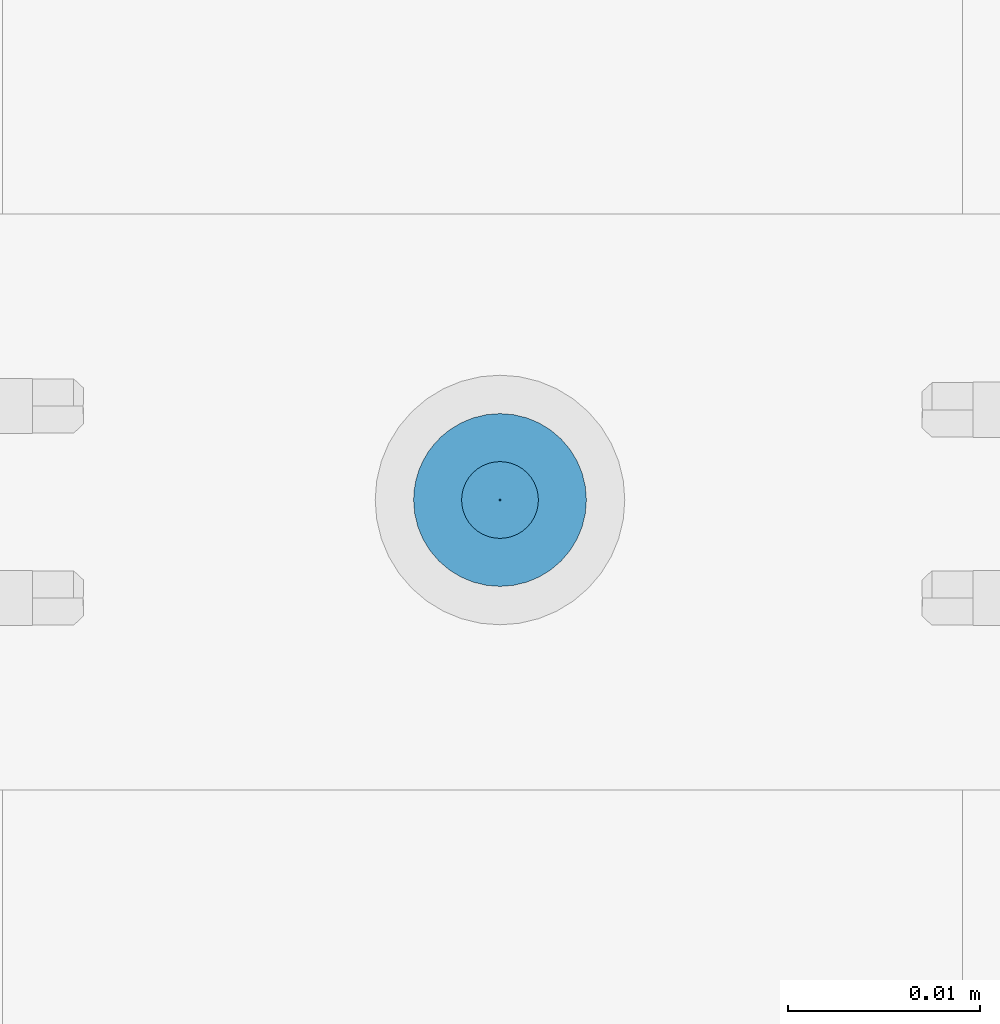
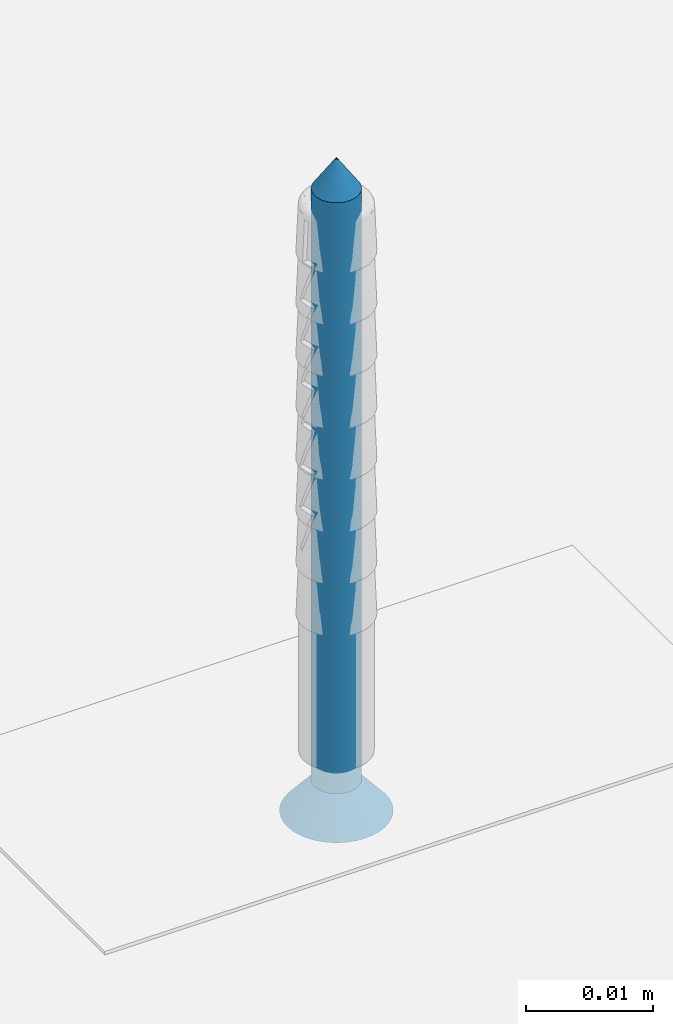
# One storey, part 7 of 62: 1 slab.
"""IFC2X3 building model written with IfcOpenShell, lengths in millimetres."""

from ifc_helpers import new_model, entity, si_unit, converted_unit, direction, frame, origin, origin_with_axes, place, context, project, spatial, faceted_brep, element, save


model = new_model("IFC2X3")

# Units and contexts
model_context = context("Model", 3, precision=1e-05, world=origin(), true_north=direction((0.0, 1.0, 0.0)))
ifc_project = project(units=[si_unit("LENGTHUNIT", "METRE", prefix="MILLI"), si_unit("AREAUNIT", "SQUARE_METRE"), si_unit("VOLUMEUNIT", "CUBIC_METRE"), converted_unit("PLANEANGLEUNIT", "DEGREE", entity("IfcPlaneAngleMeasure", 0.01745), si_unit("PLANEANGLEUNIT", "RADIAN"), dimensions=[0, 0, 0, 0, 0, 0, 0]), si_unit("SOLIDANGLEUNIT", "STERADIAN"), si_unit("MASSUNIT", "GRAM"), si_unit("TIMEUNIT", "SECOND"), si_unit("THERMODYNAMICTEMPERATUREUNIT", "DEGREE_CELSIUS"), si_unit("LUMINOUSINTENSITYUNIT", "LUMEN")], contexts=[model_context])

# Site, building, storey
site_placement = place(None, origin_with_axes())
site = spatial("IfcSite", under=ifc_project, at=site_placement, Name="Default Site", CompositionType="ELEMENT")
building_placement = place(site_placement, origin_with_axes())
building = spatial("IfcBuilding", under=site, at=building_placement, Name="Default Building", CompositionType="ELEMENT")
storey_placement = place(building_placement, origin_with_axes())
storey = spatial("IfcBuildingStorey", under=building, at=storey_placement, Name="Default Building Storey", CompositionType="ELEMENT", Elevation=0.0)

# Slab
slab_placement = place(storey_placement, frame((5816.179814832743, 408.8922130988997, 1384.974461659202), z_axis=(-6.858158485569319e-13, 6.095830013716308e-13, -1.0), x_axis=(-1.647602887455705e-11, -1.0, -6.095830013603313e-13)))
element("IfcSlab", 1, at=slab_placement, inside=storey, Name="Stalowe elementy mocujące", context=model_context, shape_type="Brep", body=[
    faceted_brep([(-1438.31414949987, 3453.283223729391, -0.4642567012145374), (-1435.814149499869, 3453.283223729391, -3.464256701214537), (-1435.78952618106, 3452.97035479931, -3.464256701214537), (-1438.258747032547, 3452.57926863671, -0.4642567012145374), (-1435.71626253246, 3452.665189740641, -3.464256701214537), (-1438.093903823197, 3451.892647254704, -0.4642567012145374), (-1435.596162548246, 3452.375242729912, -3.464256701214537), (-1437.823678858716, 3451.240266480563, -0.4642567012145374), (-1435.432183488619, 3452.107653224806, -3.464256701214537), (-1437.454725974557, 3450.638190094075, -0.4642567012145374), (-1435.228363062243, 3451.869010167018, -3.464256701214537), (-1436.996130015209, 3450.101243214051, -0.4642567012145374), (-1434.989720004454, 3451.665189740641, -3.464256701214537), (-1436.459183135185, 3449.642647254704, -0.4642567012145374), (-1434.722130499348, 3451.501210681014, -3.464256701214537), (-1435.857106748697, 3449.273694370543, -0.4642567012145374), (-1434.432183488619, 3451.381110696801, -3.464256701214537), (-1435.204725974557, 3449.003469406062, -0.4642567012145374), (-1434.12701842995, 3451.307847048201, -3.464256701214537), (-1434.51810459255, 3448.838626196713, -0.4642567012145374), (-1433.814149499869, 3451.283223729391, -3.464256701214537), (-1433.814149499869, 3448.783223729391, -0.4642567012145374), (-1433.501280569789, 3451.307847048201, -3.464256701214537), (-1433.110194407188, 3448.838626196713, -0.4642567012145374), (-1433.19611551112, 3451.381110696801, -3.464256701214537), (-1432.423573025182, 3449.003469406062, -0.4642567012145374), (-1432.906168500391, 3451.501210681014, -3.464256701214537), (-1431.771192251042, 3449.273694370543, -0.4642567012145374), (-1432.638578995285, 3451.665189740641, -3.464256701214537), (-1431.169115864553, 3449.642647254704, -0.4642567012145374), (-1432.399935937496, 3451.869010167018, -3.464256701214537), (-1430.63216898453, 3450.101243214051, -0.4642567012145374), (-1432.196115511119, 3452.107653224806, -3.464256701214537), (-1430.173573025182, 3450.638190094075, -0.4642567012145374), (-1432.032136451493, 3452.375242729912, -3.464256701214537), (-1429.804620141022, 3451.240266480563, -0.4642567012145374), (-1431.912036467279, 3452.665189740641, -3.464256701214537), (-1429.534395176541, 3451.892647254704, -0.4642567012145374), (-1431.838772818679, 3453.596092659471, -3.464256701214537), (-1429.369551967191, 3453.987178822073, -0.4642567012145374), (-1429.314149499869, 3453.283223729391, -0.4642567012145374), (-1431.81414949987, 3453.283223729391, -3.464256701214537), (-1429.369551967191, 3452.57926863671, -0.4642567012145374), (-1431.838772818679, 3452.97035479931, -3.464256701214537), (-1431.912036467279, 3453.901257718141, -3.464256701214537), (-1429.534395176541, 3454.673800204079, -0.4642567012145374), (-1432.032136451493, 3454.19120472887, -3.464256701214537), (-1429.804620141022, 3455.326180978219, -0.4642567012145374), (-1432.196115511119, 3454.458794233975, -3.464256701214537), (-1430.173573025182, 3455.928257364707, -0.4642567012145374), (-1432.399935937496, 3454.697437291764, -3.464256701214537), (-1430.63216898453, 3456.465204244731, -0.4642567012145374), (-1432.638578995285, 3454.901257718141, -3.464256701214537), (-1431.169115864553, 3456.923800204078, -0.4642567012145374), (-1432.906168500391, 3455.065236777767, -3.464256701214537), (-1431.771192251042, 3457.292753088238, -0.4642567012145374), (-1433.19611551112, 3455.185336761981, -3.464256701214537), (-1432.423573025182, 3457.562978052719, -0.4642567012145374), (-1433.501280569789, 3455.258600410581, -3.464256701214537), (-1433.110194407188, 3457.727821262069, -0.4642567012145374), (-1433.814149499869, 3455.283223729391, -3.464256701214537), (-1433.814149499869, 3457.783223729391, -0.4642567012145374), (-1434.34306778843, 3457.752031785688, -0.4642567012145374), (-1434.12701842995, 3455.258600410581, -3.464256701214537), (-1434.432183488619, 3455.185336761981, -3.464256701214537), (-1434.864653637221, 3457.658888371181, -0.4642567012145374), (-1435.371676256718, 3457.505084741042, -0.4642567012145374), (-1434.722130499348, 3455.065236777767, -3.464256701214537), (-1435.857106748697, 3457.292753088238, -0.4642567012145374), (-1434.989720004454, 3454.901257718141, -3.464256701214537), (-1435.228363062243, 3454.697437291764, -3.464256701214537), (-1436.314215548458, 3457.024836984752, -0.4642567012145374), (-1436.736665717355, 3456.705050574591, -0.4642567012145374), (-1437.11860079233, 3456.337827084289, -0.4642567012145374), (-1437.454725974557, 3455.928257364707, -0.4642567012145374), (-1435.432183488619, 3454.458794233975, -3.464256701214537), (-1435.596162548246, 3454.19120472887, -3.464256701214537), (-1437.823678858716, 3455.326180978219, -0.4642567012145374), (-1435.71626253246, 3453.901257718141, -3.464256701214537), (-1438.093903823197, 3454.673800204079, -0.4642567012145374), (-1435.78952618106, 3453.596092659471, -3.464256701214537), (-1438.258747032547, 3453.987178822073, -0.4642567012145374), (-1434.205235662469, 3455.752444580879, 0.2007375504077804), (-1433.814149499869, 3455.78322372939, 0.2007375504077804), (-1434.586691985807, 3455.660865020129, 0.2007375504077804), (-1434.949125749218, 3455.510740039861, 0.2007375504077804), (-1435.283612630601, 3455.305766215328, 0.2007375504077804), (-1435.581916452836, 3455.050990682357, 0.2007375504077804), (-1435.836691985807, 3454.752686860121, 0.2007375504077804), (-1436.04166581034, 3454.41819997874, 0.2007375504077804), (-1436.191790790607, 3454.055766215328, 0.2007375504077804), (-1436.283370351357, 3453.674309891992, 0.2007375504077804), (-1436.314149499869, 3453.283223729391, 0.2007375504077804), (-1436.283370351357, 3452.892137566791, 0.2007375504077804), (-1436.191790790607, 3452.510681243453, 0.2007375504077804), (-1436.04166581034, 3452.148247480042, 0.2007375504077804), (-1435.836691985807, 3451.81376059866, 0.200737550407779), (-1435.581916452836, 3451.515456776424, 0.2007375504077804), (-1435.283612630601, 3451.260681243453, 0.2007375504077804), (-1434.949125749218, 3451.05570741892, 0.2007375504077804), (-1434.586691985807, 3450.905582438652, 0.2007375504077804), (-1433.423063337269, 3450.814002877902, 0.2007375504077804), (-1433.814149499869, 3450.783223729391, 0.2007375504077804), (-1434.205235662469, 3450.814002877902, 0.2007375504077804), (-1433.041607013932, 3450.905582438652, 0.2007375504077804), (-1432.67917325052, 3451.05570741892, 0.2007375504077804), (-1432.344686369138, 3451.260681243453, 0.2007375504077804), (-1432.046382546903, 3451.515456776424, 0.2007375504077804), (-1431.791607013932, 3451.81376059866, 0.2007375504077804), (-1431.586633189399, 3452.148247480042, 0.2007375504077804), (-1431.436508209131, 3452.510681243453, 0.2007375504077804), (-1431.344928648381, 3452.892137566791, 0.2007375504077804), (-1431.314149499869, 3453.283223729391, 0.2007375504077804), (-1431.344928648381, 3453.674309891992, 0.2007375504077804), (-1431.436508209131, 3454.055766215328, 0.2007375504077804), (-1431.586633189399, 3454.41819997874, 0.2007375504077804), (-1431.791607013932, 3454.752686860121, 0.2007375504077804), (-1432.046382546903, 3455.050990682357, 0.2007375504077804), (-1432.344686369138, 3455.305766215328, 0.2007375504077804), (-1432.67917325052, 3455.510740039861, 0.2007375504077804), (-1433.041607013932, 3455.660865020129, 0.2007375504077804), (-1433.423063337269, 3455.752444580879, 0.2007375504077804), (-1433.814149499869, 3453.283223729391, -63.46425670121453), (-1435.789526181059, 3452.97035479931, -60.46425670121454), (-1435.814149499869, 3453.283223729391, -60.46425670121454), (-1435.716262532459, 3452.665189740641, -60.46425670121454), (-1435.596162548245, 3452.375242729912, -60.46425670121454), (-1435.432183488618, 3452.107653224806, -60.46425670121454), (-1435.228363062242, 3451.869010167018, -60.46425670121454), (-1434.989720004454, 3451.665189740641, -60.46425670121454), (-1434.722130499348, 3451.501210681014, -60.46425670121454), (-1434.432183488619, 3451.381110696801, -60.46425670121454), (-1434.127018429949, 3451.307847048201, -60.46425670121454), (-1433.814149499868, 3451.283223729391, -60.46425670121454), (-1433.501280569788, 3451.307847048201, -60.46425670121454), (-1433.196115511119, 3451.381110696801, -60.46425670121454), (-1432.90616850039, 3451.501210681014, -60.46425670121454), (-1432.638578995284, 3451.665189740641, -60.46425670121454), (-1432.399935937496, 3451.869010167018, -60.46425670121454), (-1432.196115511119, 3452.107653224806, -60.46425670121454), (-1432.032136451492, 3452.375242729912, -60.46425670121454), (-1431.912036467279, 3452.665189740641, -60.46425670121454), (-1431.838772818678, 3452.97035479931, -60.46425670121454), (-1431.814149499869, 3453.283223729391, -60.46425670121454), (-1431.838772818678, 3453.596092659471, -60.46425670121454), (-1431.912036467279, 3453.901257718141, -60.46425670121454), (-1432.032136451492, 3454.19120472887, -60.46425670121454), (-1432.196115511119, 3454.458794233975, -60.46425670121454), (-1432.399935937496, 3454.697437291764, -60.46425670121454), (-1432.638578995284, 3454.901257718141, -60.46425670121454), (-1432.90616850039, 3455.065236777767, -60.46425670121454), (-1433.196115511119, 3455.185336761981, -60.46425670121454), (-1433.501280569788, 3455.258600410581, -60.46425670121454), (-1433.814149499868, 3455.283223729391, -60.46425670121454), (-1434.127018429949, 3455.258600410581, -60.46425670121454), (-1434.432183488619, 3455.185336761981, -60.46425670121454), (-1434.722130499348, 3455.065236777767, -60.46425670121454), (-1434.989720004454, 3454.901257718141, -60.46425670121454), (-1435.228363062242, 3454.697437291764, -60.46425670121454), (-1435.432183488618, 3454.458794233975, -60.46425670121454), (-1435.596162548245, 3454.19120472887, -60.46425670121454), (-1435.716262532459, 3453.901257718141, -60.46425670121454), (-1435.789526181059, 3453.596092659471, -60.46425670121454), (-1435.814149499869, 3453.783223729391, 0.04999999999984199), (-1436.04166581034, 3454.41819997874, 0.04999999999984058), (-1436.191790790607, 3454.055766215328, 0.04999999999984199), (-1435.814149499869, 3452.783223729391, 0.04999999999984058), (-1434.314149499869, 3453.783223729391, 0.04999999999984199), (-1434.314149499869, 3455.28322372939, 0.04999999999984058), (-1433.314149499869, 3455.28322372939, 0.04999999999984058), (-1433.314149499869, 3453.783223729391, 0.04999999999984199), (-1431.814149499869, 3453.783223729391, 0.04999999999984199), (-1431.814149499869, 3452.783223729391, 0.04999999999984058), (-1433.314149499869, 3452.783223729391, 0.04999999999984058), (-1433.314149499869, 3451.283223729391, 0.04999999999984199), (-1434.314149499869, 3451.283223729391, 0.04999999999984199), (-1434.314149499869, 3452.783223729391, 0.04999999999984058), (-1436.283370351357, 3453.674309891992, 0.04999999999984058), (-1436.314149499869, 3453.283223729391, 0.04999999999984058), (-1436.283370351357, 3452.892137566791, 0.04999999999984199), (-1436.191790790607, 3452.510681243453, 0.04999999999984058), (-1436.04166581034, 3452.148247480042, 0.04999999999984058), (-1435.836691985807, 3451.81376059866, 0.04999999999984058), (-1435.581916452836, 3451.515456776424, 0.04999999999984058), (-1435.283612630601, 3451.260681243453, 0.04999999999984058), (-1434.949125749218, 3451.05570741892, 0.04999999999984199), (-1434.586691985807, 3450.905582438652, 0.04999999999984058), (-1434.205235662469, 3450.814002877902, 0.04999999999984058), (-1433.814149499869, 3450.783223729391, 0.04999999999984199), (-1433.423063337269, 3450.814002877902, 0.04999999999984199), (-1433.041607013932, 3450.905582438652, 0.04999999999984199), (-1432.67917325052, 3451.05570741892, 0.04999999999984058), (-1432.344686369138, 3451.260681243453, 0.04999999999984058), (-1432.046382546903, 3451.515456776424, 0.04999999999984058), (-1431.791607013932, 3451.81376059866, 0.04999999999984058), (-1431.586633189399, 3452.148247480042, 0.04999999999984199), (-1431.436508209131, 3452.510681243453, 0.04999999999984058), (-1431.344928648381, 3452.892137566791, 0.04999999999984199), (-1431.314149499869, 3453.283223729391, 0.04999999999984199), (-1431.344928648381, 3453.674309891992, 0.04999999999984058), (-1431.436508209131, 3454.055766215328, 0.04999999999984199), (-1431.586633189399, 3454.41819997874, 0.04999999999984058), (-1431.791607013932, 3454.752686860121, 0.04999999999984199), (-1432.046382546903, 3455.050990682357, 0.04999999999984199), (-1432.344686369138, 3455.305766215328, 0.04999999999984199), (-1432.67917325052, 3455.510740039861, 0.04999999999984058), (-1433.041607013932, 3455.660865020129, 0.04999999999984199), (-1433.423063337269, 3455.752444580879, 0.04999999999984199), (-1433.814149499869, 3455.78322372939, 0.04999999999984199), (-1434.205235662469, 3455.752444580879, 0.04999999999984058), (-1434.586691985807, 3455.660865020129, 0.04999999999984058), (-1434.949125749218, 3455.510740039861, 0.04999999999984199), (-1435.283612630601, 3455.305766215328, 0.04999999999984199), (-1435.581916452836, 3455.050990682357, 0.04999999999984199), (-1435.836691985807, 3454.752686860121, 0.04999999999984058), (-1434.314149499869, 3452.783223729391, -1.79926244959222), (-1434.314149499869, 3451.283223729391, -1.799262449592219), (-1433.314149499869, 3451.283223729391, -1.799262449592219), (-1433.314149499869, 3452.783223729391, -1.79926244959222), (-1431.81414949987, 3452.783223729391, -1.79926244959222), (-1431.81414949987, 3453.783223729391, -1.799262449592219), (-1433.314149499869, 3453.783223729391, -1.799262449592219), (-1433.314149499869, 3455.28322372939, -1.79926244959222), (-1434.314149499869, 3455.28322372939, -1.79926244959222), (-1434.314149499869, 3453.783223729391, -1.799262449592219), (-1435.814149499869, 3453.783223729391, -1.799262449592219), (-1435.814149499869, 3452.783223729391, -1.79926244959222)], [[[0, 1, 2, 3]], [[4, 5, 3, 2]], [[6, 7, 5, 4]], [[7, 6, 8, 9]], [[10, 11, 9, 8]], [[11, 10, 12, 13]], [[14, 15, 13, 12]], [[16, 17, 15, 14]], [[17, 16, 18, 19]], [[20, 21, 19, 18]], [[21, 20, 22, 23]], [[24, 25, 23, 22]], [[26, 27, 25, 24]], [[27, 26, 28, 29]], [[30, 31, 29, 28]], [[31, 30, 32, 33]], [[34, 35, 33, 32]], [[36, 37, 35, 34]], [[38, 39, 40, 41]], [[41, 40, 42, 43]], [[37, 36, 43, 42]], [[44, 45, 39, 38]], [[46, 47, 45, 44]], [[47, 46, 48, 49]], [[50, 51, 49, 48]], [[51, 50, 52, 53]], [[54, 55, 53, 52]], [[56, 57, 55, 54]], [[57, 56, 58, 59]], [[60, 61, 59, 58]], [[62, 61, 63]], [[61, 60, 63]], [[63, 64, 62]], [[64, 65, 62]], [[66, 65, 64]], [[64, 67, 66]], [[67, 68, 66]], [[69, 70, 71]], [[70, 72, 71]], [[71, 68, 69]], [[68, 67, 69]], [[70, 73, 72]], [[74, 73, 75]], [[73, 70, 75]], [[76, 77, 74, 75]], [[78, 79, 77, 76]], [[79, 78, 80, 81]], [[1, 0, 81, 80]], [[82, 83, 62]], [[83, 61, 62]], [[62, 65, 82]], [[65, 84, 82]], [[66, 68, 84]], [[68, 85, 84]], [[84, 65, 66]], [[86, 85, 71]], [[85, 68, 71]], [[72, 73, 87]], [[87, 86, 72]], [[86, 71, 72]], [[88, 87, 74]], [[87, 73, 74]], [[77, 89, 88, 74]], [[79, 90, 89, 77]], [[90, 79, 81, 91]], [[0, 92, 91, 81]], [[92, 0, 3, 93]], [[5, 94, 93, 3]], [[7, 95, 94, 5]], [[95, 7, 9, 96]], [[11, 97, 96, 9]], [[97, 11, 13, 98]], [[15, 99, 98, 13]], [[17, 100, 99, 15]], [[23, 101, 102, 21]], [[21, 102, 103, 19]], [[100, 17, 19, 103]], [[25, 104, 101, 23]], [[27, 105, 104, 25]], [[105, 27, 29, 106]], [[31, 107, 106, 29]], [[107, 31, 33, 108]], [[35, 109, 108, 33]], [[37, 110, 109, 35]], [[110, 37, 42, 111]], [[40, 112, 111, 42]], [[112, 40, 39, 113]], [[45, 114, 113, 39]], [[47, 115, 114, 45]], [[115, 47, 49, 116]], [[51, 117, 116, 49]], [[117, 51, 53, 118]], [[55, 119, 118, 53]], [[57, 120, 119, 55]], [[120, 57, 59, 121]], [[61, 83, 121, 59]], [[122, 123, 124]], [[122, 125, 123]], [[122, 126, 125]], [[127, 126, 122]], [[122, 128, 127]], [[129, 128, 122]], [[122, 130, 129]], [[122, 131, 130]], [[132, 131, 122]], [[122, 133, 132]], [[134, 133, 122]], [[122, 135, 134]], [[122, 136, 135]], [[137, 136, 122]], [[122, 138, 137]], [[139, 138, 122]], [[122, 140, 139]], [[122, 141, 140]], [[142, 141, 122]], [[122, 143, 142]], [[144, 143, 122]], [[122, 145, 144]], [[122, 146, 145]], [[147, 146, 122]], [[122, 148, 147]], [[149, 148, 122]], [[122, 150, 149]], [[122, 151, 150]], [[152, 151, 122]], [[122, 153, 152]], [[154, 153, 122]], [[122, 155, 154]], [[122, 156, 155]], [[157, 156, 122]], [[122, 158, 157]], [[159, 158, 122]], [[122, 160, 159]], [[122, 161, 160]], [[162, 161, 122]], [[124, 162, 122]], [[1, 124, 123, 2]], [[125, 4, 2, 123]], [[126, 6, 4, 125]], [[6, 126, 127, 8]], [[128, 10, 8, 127]], [[10, 128, 129, 12]], [[130, 14, 12, 129]], [[131, 16, 14, 130]], [[16, 131, 132, 18]], [[133, 20, 18, 132]], [[20, 133, 134, 22]], [[135, 24, 22, 134]], [[136, 26, 24, 135]], [[26, 136, 137, 28]], [[138, 30, 28, 137]], [[30, 138, 139, 32]], [[140, 34, 32, 139]], [[141, 36, 34, 140]], [[144, 38, 41, 143]], [[143, 41, 43, 142]], [[36, 141, 142, 43]], [[145, 44, 38, 144]], [[146, 46, 44, 145]], [[46, 146, 147, 48]], [[148, 50, 48, 147]], [[50, 148, 149, 52]], [[150, 54, 52, 149]], [[151, 56, 54, 150]], [[56, 151, 152, 58]], [[153, 60, 58, 152]], [[60, 153, 154, 63]], [[155, 64, 63, 154]], [[156, 67, 64, 155]], [[67, 156, 157, 69]], [[158, 70, 69, 157]], [[70, 158, 159, 75]], [[160, 76, 75, 159]], [[161, 78, 76, 160]], [[78, 161, 162, 80]], [[124, 1, 80, 162]], [[163, 164, 165, 166]], [[163, 167, 168, 169, 170, 171, 172, 173, 174, 175, 176, 166, 165, 177, 178, 179, 180, 181, 182, 183, 184, 185, 186, 187, 188, 189, 190, 191, 192, 193, 194, 195, 196, 197, 198, 199, 200, 201, 202, 203, 204, 205, 206, 207, 208, 209, 210, 211, 212, 213, 214, 164]], [[199, 198, 112, 113]], [[113, 114, 200, 199]], [[114, 115, 201, 200]], [[202, 201, 115, 116]], [[116, 117, 203, 202]], [[204, 203, 117, 118]], [[118, 119, 205, 204]], [[119, 120, 206, 205]], [[207, 206, 120, 121]], [[121, 83, 208, 207]], [[209, 208, 83, 82]], [[82, 84, 210, 209]], [[84, 85, 211, 210]], [[212, 211, 85, 86]], [[86, 87, 213, 212]], [[214, 213, 87, 88]], [[88, 89, 164, 214]], [[89, 90, 165, 164]], [[92, 93, 179, 178]], [[91, 92, 178, 177]], [[177, 165, 90, 91]], [[93, 94, 180, 179]], [[94, 95, 181, 180]], [[182, 181, 95, 96]], [[96, 97, 183, 182]], [[184, 183, 97, 98]], [[98, 99, 185, 184]], [[99, 100, 186, 185]], [[187, 186, 100, 103]], [[103, 102, 188, 187]], [[189, 188, 102, 101]], [[101, 104, 190, 189]], [[104, 105, 191, 190]], [[192, 191, 105, 106]], [[106, 107, 193, 192]], [[194, 193, 107, 108]], [[108, 109, 195, 194]], [[109, 110, 196, 195]], [[197, 196, 110, 111]], [[111, 112, 198, 197]], [[215, 216, 217, 218, 219, 220, 221, 222, 223, 224, 225, 226]], [[216, 175, 174, 217]], [[215, 176, 175, 216]], [[226, 166, 176, 215]], [[225, 163, 166, 226]], [[224, 167, 163, 225]], [[223, 168, 167, 224]], [[222, 169, 168, 223]], [[221, 170, 169, 222]], [[220, 171, 170, 221]], [[219, 172, 171, 220]], [[218, 173, 172, 219]], [[217, 174, 173, 218]]]),
])

save(model, "model.ifc")
